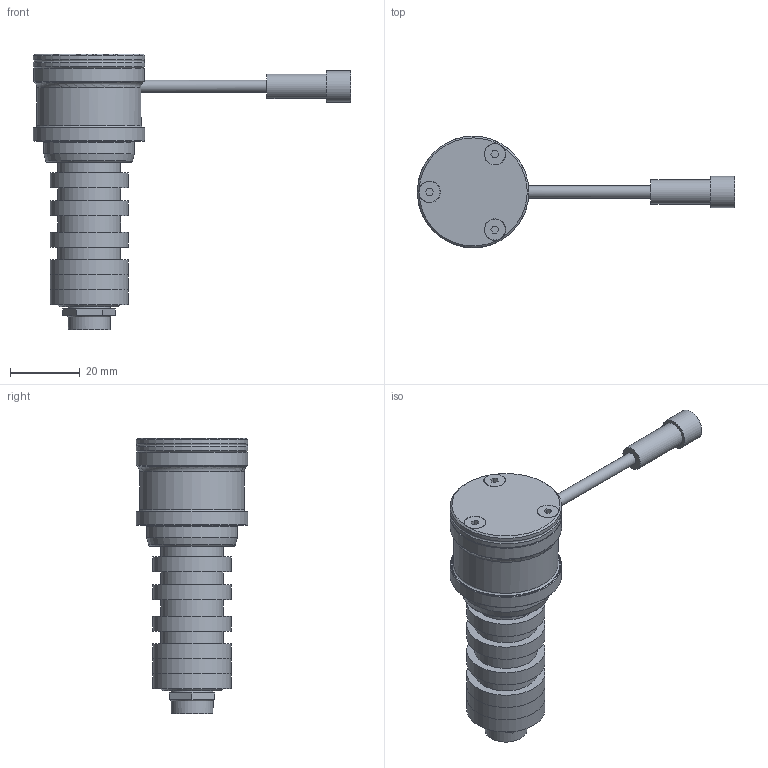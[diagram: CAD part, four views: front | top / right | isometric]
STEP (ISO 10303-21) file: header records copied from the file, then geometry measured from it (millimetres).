
FILE_DESCRIPTION(('STEP AP214'),'1');
FILE_NAME('FLM3-C.stp','2018-06-12T08:55:25',(' '),(' '),'Spatial InterOp 3D',' ',' ');
FILE_SCHEMA(('AUTOMOTIVE_DESIGN { 1 0 10303 214 1 1 1 1 }'));
Length unit declared in the file: millimetre
Products named in the file (1): 1
Bounding box: 91 x 32 x 79.12 mm (x, y, z)
Volume: 36624.8 mm3; surface area: 15469.7 mm2
Topology: 5 solids, 5 shells, 129 faces, 302 edges, 193 vertices
Faces by surface type: plane 61, cylinder 37, cone 19, torus 9, revolution 3
Full cylindrical faces by diameter (mm): 2.5 x3, 3 x3, 3.4 x3, 3.5 x1, 7 x1, 9 x1, 18 x5, 22.4 x10, 23 x1, 26 x1, 30 x1, 32 x3
Entity records: 4487 total; most frequent: CARTESIAN_POINT 798, DIRECTION 562, ORIENTED_EDGE 434, AXIS2_PLACEMENT_3D 233, EDGE_CURVE 217, EDGE_LOOP 213, FACE_OUTER_BOUND 172, VERTEX_POINT 171
